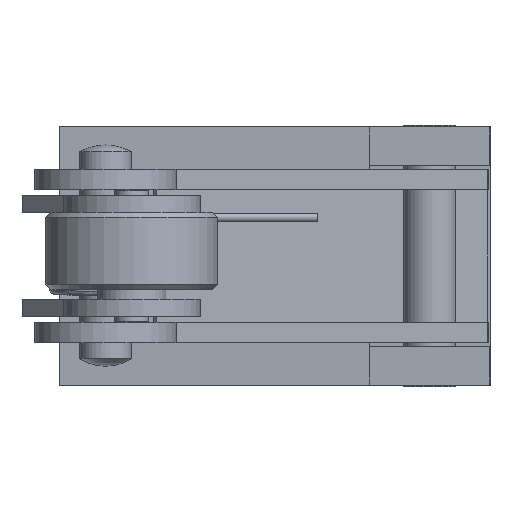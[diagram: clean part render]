
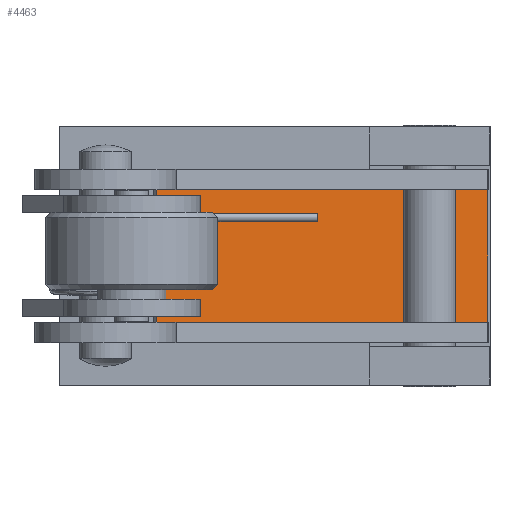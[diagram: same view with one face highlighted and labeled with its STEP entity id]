
A CAD part, left-side view. The second image highlights one B-rep face of the part: STEP entity #4463.
In plain terms, the highlighted planar face has unit normal (-0.986, -0.168, 0).
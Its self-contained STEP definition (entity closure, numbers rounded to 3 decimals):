
#56=LINE('',#10957,#391);
#67=LINE('',#10985,#402);
#71=LINE('',#10997,#406);
#76=LINE('',#11007,#411);
#391=VECTOR('',#6688,1000.);
#402=VECTOR('',#6717,1000.);
#406=VECTOR('',#6729,1000.);
#411=VECTOR('',#6738,1000.);
#1236=ORIENTED_EDGE('',*,*,#2264,.F.);
#1237=ORIENTED_EDGE('',*,*,#2278,.T.);
#1238=ORIENTED_EDGE('',*,*,#2289,.T.);
#1239=ORIENTED_EDGE('',*,*,#2284,.F.);
#2264=EDGE_CURVE('',#2849,#2850,#56,.T.);
#2278=EDGE_CURVE('',#2849,#2857,#67,.T.);
#2284=EDGE_CURVE('',#2850,#2862,#71,.T.);
#2289=EDGE_CURVE('',#2857,#2862,#76,.T.);
#2849=VERTEX_POINT('',#10956);
#2850=VERTEX_POINT('',#10958);
#2857=VERTEX_POINT('',#10984);
#2862=VERTEX_POINT('',#10998);
#3490=EDGE_LOOP('',(#1236,#1237,#1238,#1239));
#3934=FACE_BOUND('',#3490,.T.);
#4288=PLANE('',#6194);
#4463=ADVANCED_FACE('',(#3934),#4288,.F.);
#6194=AXIS2_PLACEMENT_3D('',#11040,#6776,#6777);
#6688=DIRECTION('',(0.168,-0.986,0.));
#6717=DIRECTION('',(0.,0.,-1.));
#6729=DIRECTION('',(0.,0.,-1.));
#6738=DIRECTION('',(0.168,-0.986,0.));
#6776=DIRECTION('',(0.986,0.168,0.));
#6777=DIRECTION('',(0.,0.,-1.));
#10956=CARTESIAN_POINT('',(-40.669,6.863,3.85));
#10957=CARTESIAN_POINT('',(-40.726,7.198,3.85));
#10958=CARTESIAN_POINT('',(-37.4,-12.363,3.85));
#10984=CARTESIAN_POINT('',(-40.669,6.863,-3.85));
#10985=CARTESIAN_POINT('',(-40.669,6.863,3.8));
#10997=CARTESIAN_POINT('',(-37.4,-12.363,3.8));
#10998=CARTESIAN_POINT('',(-37.4,-12.363,-3.85));
#11007=CARTESIAN_POINT('',(-40.726,7.198,-3.85));
#11040=CARTESIAN_POINT('',(-37.4,-12.363,3.8));
